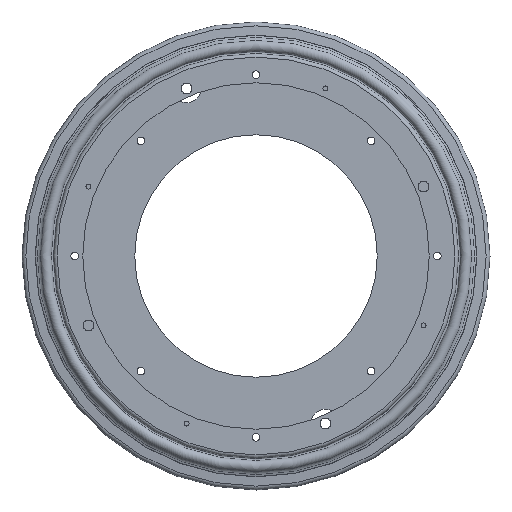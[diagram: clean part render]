
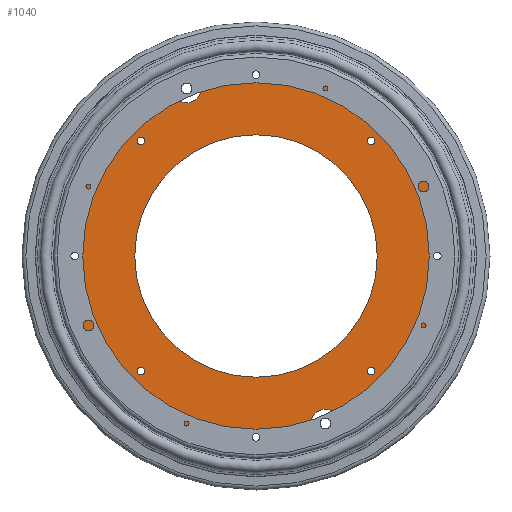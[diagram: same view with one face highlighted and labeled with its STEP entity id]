
A CAD part, front view. The second image highlights one B-rep face of the part: STEP entity #1040.
In plain terms, the highlighted planar face has unit normal (0, -1, 0).
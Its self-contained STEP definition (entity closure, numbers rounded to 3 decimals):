
#72=FACE_BOUND('',#256,.T.);
#73=FACE_BOUND('',#257,.T.);
#74=FACE_BOUND('',#258,.T.);
#75=FACE_BOUND('',#259,.T.);
#76=FACE_BOUND('',#260,.T.);
#77=FACE_BOUND('',#261,.T.);
#78=FACE_BOUND('',#262,.T.);
#79=FACE_BOUND('',#263,.T.);
#80=FACE_BOUND('',#264,.T.);
#81=FACE_BOUND('',#265,.T.);
#82=FACE_BOUND('',#266,.T.);
#88=PLANE('',#1246);
#159=FACE_OUTER_BOUND('',#255,.T.);
#255=EDGE_LOOP('',(#882));
#256=EDGE_LOOP('',(#883));
#257=EDGE_LOOP('',(#884));
#258=EDGE_LOOP('',(#885));
#259=EDGE_LOOP('',(#886));
#260=EDGE_LOOP('',(#887));
#261=EDGE_LOOP('',(#888));
#262=EDGE_LOOP('',(#889));
#263=EDGE_LOOP('',(#890));
#264=EDGE_LOOP('',(#891));
#265=EDGE_LOOP('',(#892));
#266=EDGE_LOOP('',(#893));
#401=CIRCLE('',#1209,2.58);
#403=CIRCLE('',#1212,2.58);
#405=CIRCLE('',#1215,2.58);
#407=CIRCLE('',#1218,2.58);
#409=CIRCLE('',#1221,9.525);
#411=CIRCLE('',#1224,9.525);
#413=CIRCLE('',#1227,3.57);
#415=CIRCLE('',#1230,3.57);
#417=CIRCLE('',#1233,3.57);
#419=CIRCLE('',#1236,3.57);
#421=CIRCLE('',#1239,80.391);
#426=CIRCLE('',#1247,132.92);
#503=VERTEX_POINT('',#1826);
#505=VERTEX_POINT('',#1832);
#507=VERTEX_POINT('',#1838);
#509=VERTEX_POINT('',#1844);
#511=VERTEX_POINT('',#1850);
#513=VERTEX_POINT('',#1856);
#515=VERTEX_POINT('',#1862);
#517=VERTEX_POINT('',#1868);
#519=VERTEX_POINT('',#1874);
#521=VERTEX_POINT('',#1880);
#523=VERTEX_POINT('',#1886);
#527=VERTEX_POINT('',#1899);
#617=EDGE_CURVE('',#503,#503,#401,.T.);
#620=EDGE_CURVE('',#505,#505,#403,.T.);
#623=EDGE_CURVE('',#507,#507,#405,.T.);
#626=EDGE_CURVE('',#509,#509,#407,.T.);
#629=EDGE_CURVE('',#511,#511,#409,.T.);
#632=EDGE_CURVE('',#513,#513,#411,.T.);
#635=EDGE_CURVE('',#515,#515,#413,.T.);
#638=EDGE_CURVE('',#517,#517,#415,.T.);
#641=EDGE_CURVE('',#519,#519,#417,.T.);
#644=EDGE_CURVE('',#521,#521,#419,.T.);
#647=EDGE_CURVE('',#523,#523,#421,.T.);
#652=EDGE_CURVE('',#527,#527,#426,.T.);
#882=ORIENTED_EDGE('',*,*,#652,.F.);
#883=ORIENTED_EDGE('',*,*,#617,.T.);
#884=ORIENTED_EDGE('',*,*,#620,.T.);
#885=ORIENTED_EDGE('',*,*,#623,.T.);
#886=ORIENTED_EDGE('',*,*,#626,.T.);
#887=ORIENTED_EDGE('',*,*,#629,.T.);
#888=ORIENTED_EDGE('',*,*,#632,.T.);
#889=ORIENTED_EDGE('',*,*,#635,.T.);
#890=ORIENTED_EDGE('',*,*,#638,.T.);
#891=ORIENTED_EDGE('',*,*,#641,.T.);
#892=ORIENTED_EDGE('',*,*,#644,.T.);
#893=ORIENTED_EDGE('',*,*,#647,.T.);
#1040=ADVANCED_FACE('',(#159,#72,#73,#74,#75,#76,#77,#78,#79,#80,#81,#82),
#88,.T.);
#1209=AXIS2_PLACEMENT_3D('',#1828,#1481,#1482);
#1212=AXIS2_PLACEMENT_3D('',#1834,#1488,#1489);
#1215=AXIS2_PLACEMENT_3D('',#1840,#1495,#1496);
#1218=AXIS2_PLACEMENT_3D('',#1846,#1502,#1503);
#1221=AXIS2_PLACEMENT_3D('',#1852,#1509,#1510);
#1224=AXIS2_PLACEMENT_3D('',#1858,#1516,#1517);
#1227=AXIS2_PLACEMENT_3D('',#1864,#1523,#1524);
#1230=AXIS2_PLACEMENT_3D('',#1870,#1530,#1531);
#1233=AXIS2_PLACEMENT_3D('',#1876,#1537,#1538);
#1236=AXIS2_PLACEMENT_3D('',#1882,#1544,#1545);
#1239=AXIS2_PLACEMENT_3D('',#1888,#1551,#1552);
#1246=AXIS2_PLACEMENT_3D('',#1898,#1565,#1566);
#1247=AXIS2_PLACEMENT_3D('',#1900,#1567,#1568);
#1481=DIRECTION('center_axis',(0.,1.,0.));
#1482=DIRECTION('ref_axis',(1.,0.,0.));
#1488=DIRECTION('center_axis',(0.,1.,0.));
#1489=DIRECTION('ref_axis',(1.,0.,0.));
#1495=DIRECTION('center_axis',(0.,1.,0.));
#1496=DIRECTION('ref_axis',(1.,0.,0.));
#1502=DIRECTION('center_axis',(0.,1.,0.));
#1503=DIRECTION('ref_axis',(1.,0.,0.));
#1509=DIRECTION('center_axis',(0.,1.,0.));
#1510=DIRECTION('ref_axis',(1.,0.,0.));
#1516=DIRECTION('center_axis',(0.,1.,0.));
#1517=DIRECTION('ref_axis',(1.,0.,0.));
#1523=DIRECTION('center_axis',(0.,1.,0.));
#1524=DIRECTION('ref_axis',(1.,0.,0.));
#1530=DIRECTION('center_axis',(0.,1.,0.));
#1531=DIRECTION('ref_axis',(1.,0.,0.));
#1537=DIRECTION('center_axis',(0.,1.,0.));
#1538=DIRECTION('ref_axis',(1.,0.,0.));
#1544=DIRECTION('center_axis',(0.,1.,0.));
#1545=DIRECTION('ref_axis',(1.,0.,0.));
#1551=DIRECTION('center_axis',(0.,1.,0.));
#1552=DIRECTION('ref_axis',(1.,0.,0.));
#1565=DIRECTION('center_axis',(0.,-1.,0.));
#1566=DIRECTION('ref_axis',(0.,0.,-1.));
#1567=DIRECTION('center_axis',(0.,1.,0.));
#1568=DIRECTION('ref_axis',(1.,0.,0.));
#1826=CARTESIAN_POINT('',(-78.912,0.,76.332));
#1828=CARTESIAN_POINT('Origin',(-76.332,0.,76.332));
#1832=CARTESIAN_POINT('',(73.752,0.,-76.332));
#1834=CARTESIAN_POINT('Origin',(76.332,0.,-76.332));
#1838=CARTESIAN_POINT('',(-78.912,0.,-76.332));
#1840=CARTESIAN_POINT('Origin',(-76.332,0.,-76.332));
#1844=CARTESIAN_POINT('',(73.752,0.,76.332));
#1846=CARTESIAN_POINT('Origin',(76.332,0.,76.332));
#1850=CARTESIAN_POINT('',(36.495,0.,-111.101));
#1852=CARTESIAN_POINT('Origin',(46.02,0.,-111.101));
#1856=CARTESIAN_POINT('',(-55.545,0.,111.101));
#1858=CARTESIAN_POINT('Origin',(-46.02,0.,111.101));
#1862=CARTESIAN_POINT('',(-123.825,0.,0.));
#1864=CARTESIAN_POINT('Origin',(-120.255,0.,0.));
#1868=CARTESIAN_POINT('',(116.685,0.,0.));
#1870=CARTESIAN_POINT('Origin',(120.255,0.,0.));
#1874=CARTESIAN_POINT('',(-3.57,0.,-120.255));
#1876=CARTESIAN_POINT('Origin',(0.,0.,-120.255));
#1880=CARTESIAN_POINT('',(-3.57,0.,120.255));
#1882=CARTESIAN_POINT('Origin',(0.,0.,120.255));
#1886=CARTESIAN_POINT('',(-80.391,0.,0.));
#1888=CARTESIAN_POINT('Origin',(0.,0.,0.));
#1898=CARTESIAN_POINT('Origin',(-132.92,0.,0.));
#1899=CARTESIAN_POINT('',(0.,0.,-132.92));
#1900=CARTESIAN_POINT('Origin',(0.,0.,0.));
